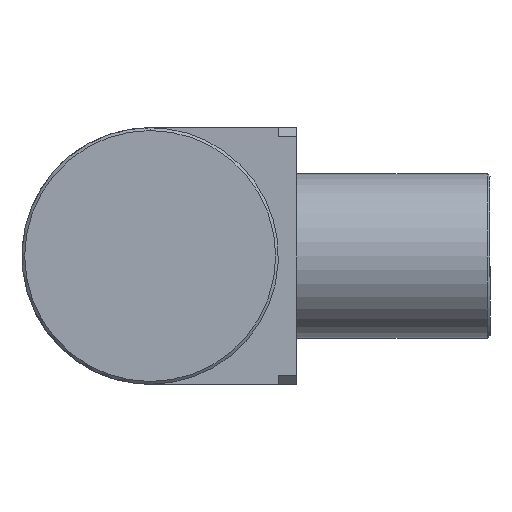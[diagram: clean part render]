
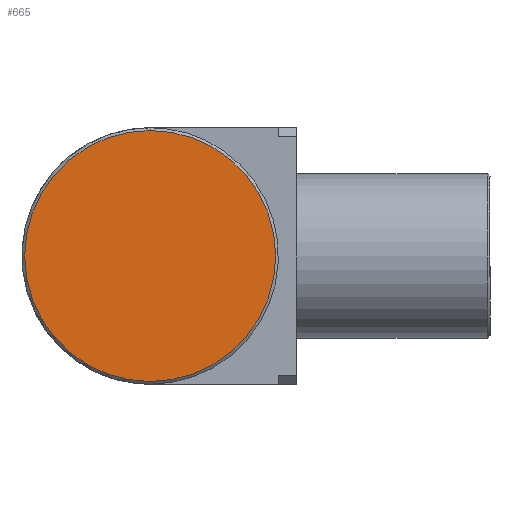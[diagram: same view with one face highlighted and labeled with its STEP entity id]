
A CAD part, left-side view. The second image highlights one B-rep face of the part: STEP entity #665.
In plain terms, the highlighted planar face has unit normal (-1, 0, 0).
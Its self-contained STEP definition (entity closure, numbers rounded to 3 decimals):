
#406 = FACE_OUTER_BOUND ( 'NONE', #1012, .T. ) ;
#449 = VERTEX_POINT ( 'NONE', #2354 ) ;
#553 = CARTESIAN_POINT ( 'NONE',  ( 0., 0., 0. ) ) ;
#610 = EDGE_CURVE ( 'NONE', #449, #845, #2047, .T. ) ;
#617 = AXIS2_PLACEMENT_3D ( 'NONE', #553, #2672, #2262 ) ;
#665 = ADVANCED_FACE ( 'NONE', ( #406 ), #2221, .F. ) ;
#845 = VERTEX_POINT ( 'NONE', #1883 ) ;
#956 = ORIENTED_EDGE ( 'NONE', *, *, #2350, .T. ) ;
#1012 = EDGE_LOOP ( 'NONE', ( #1115, #956 ) ) ;
#1115 = ORIENTED_EDGE ( 'NONE', *, *, #610, .T. ) ;
#1128 = CARTESIAN_POINT ( 'NONE',  ( 0., 12.25, 0. ) ) ;
#1156 = DIRECTION ( 'NONE',  ( 0., 0., -1. ) ) ;
#1520 = CIRCLE ( 'NONE', #617, 13.7 ) ;
#1589 = CARTESIAN_POINT ( 'NONE',  ( 0., 0., 0. ) ) ;
#1606 = AXIS2_PLACEMENT_3D ( 'NONE', #1589, #1808, #2619 ) ;
#1808 = DIRECTION ( 'NONE',  ( -1., 0., 0. ) ) ;
#1883 = CARTESIAN_POINT ( 'NONE',  ( 0., 0., 13.7 ) ) ;
#2018 = DIRECTION ( 'NONE',  ( 1., 0., 0. ) ) ;
#2047 = CIRCLE ( 'NONE', #1606, 13.7 ) ;
#2221 = PLANE ( 'NONE',  #2729 ) ;
#2262 = DIRECTION ( 'NONE',  ( 0., 0., -1. ) ) ;
#2350 = EDGE_CURVE ( 'NONE', #845, #449, #1520, .T. ) ;
#2354 = CARTESIAN_POINT ( 'NONE',  ( 0., 0., -13.7 ) ) ;
#2619 = DIRECTION ( 'NONE',  ( 0., 0., -1. ) ) ;
#2672 = DIRECTION ( 'NONE',  ( -1., 0., 0. ) ) ;
#2729 = AXIS2_PLACEMENT_3D ( 'NONE', #1128, #2018, #1156 ) ;
